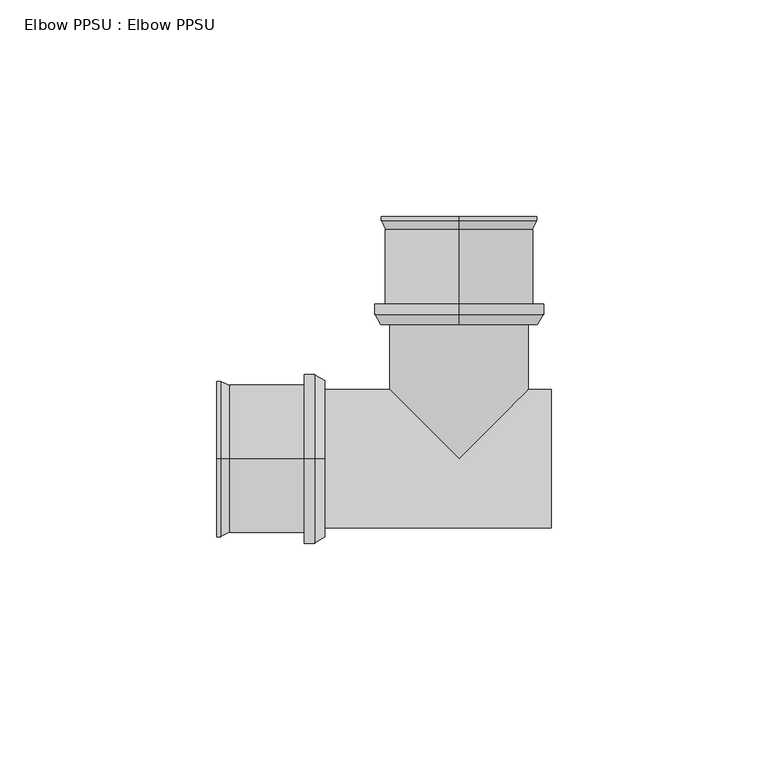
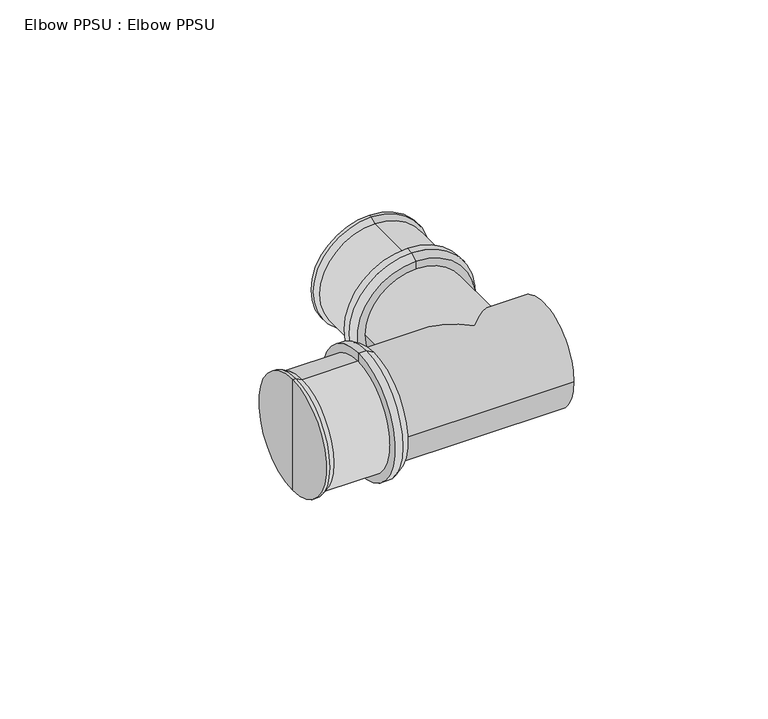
"""IFC4 building model written with IfcOpenShell, lengths in millimetres: pipe fitting geometry, Elbow PPSU : Elbow PPSU."""

from ifc_helpers import new_model, si_unit, frame, origin, place, context, project, spatial, polyline, circle_curve, ellipse_curve, source, transform, mapped, element, save
from ifc_brep_helpers import plane_surface, cylinder_surface, revolved_surface, advanced_brep


def elbow_ppsu_elbow_ppsu_6d3a7ead(model_context):
    return source(origin(), model_context, "Body", "AdvancedBrep", [
        advanced_brep(
        [(-31.0, 0.0, 0.0), (-31.0, 0.0, 18.1432269), (-31.0, 0.0, -18.1432269), (-35.7, 0.0, -19.5), (-35.7, 0.0, 19.5), (-35.7, 0.0, 0.0), (-33.35, 0.0, -19.5), (-33.35, 0.0, 19.5)],
        [
            (0, 1),
            (1, 2, circle_curve(frame((-31.0, 0.0, 0.0), z_axis=(1.0, 0.0, 0.0), x_axis=(0.0, 0.0, 1.0)), 18.1432269)),
            (2, 0),
            (2, 1, circle_curve(frame((-31.0, 0.0, 0.0), z_axis=(1.0, 0.0, 0.0), x_axis=(0.0, 0.0, 1.0)), 18.1432269)),
            (3, 4, circle_curve(frame((-35.7, 0.0, 0.0), z_axis=(-1.0, 0.0, 0.0), x_axis=(0.0, 0.0, 1.0)), 19.5)),
            (4, 5),
            (5, 3),
            (4, 3, circle_curve(frame((-35.7, 0.0, 0.0), z_axis=(-1.0, 0.0, 0.0), x_axis=(0.0, 0.0, 1.0)), 19.5)),
            (6, 7, circle_curve(frame((-33.35, 0.0, 0.0), z_axis=(-1.0, 0.0, 0.0), x_axis=(0.0, 0.0, 1.0)), 19.5)),
            (7, 4),
            (3, 6),
            (7, 6, circle_curve(frame((-33.35, 0.0, 0.0), z_axis=(-1.0, 0.0, 0.0), x_axis=(0.0, 0.0, 1.0)), 19.5)),
            (1, 7),
            (6, 2),
        ],
        [
            plane_surface(frame((-31.0, 0.0, 0.0), z_axis=(1.0, 0.0, 0.0), x_axis=(0.0, 0.0, 1.0))),
            plane_surface(frame((-35.7, 0.0, 0.0), z_axis=(-1.0, 0.0, 0.0), x_axis=(0.0, 0.0, 1.0))),
            cylinder_surface(frame((-32.0, 0.0, 0.0), z_axis=(1.0, 0.0, 0.0), x_axis=(0.0, 0.0, 1.0)), 19.5),
            revolved_surface(polyline([(-33.35, 0.0, 19.5), (-31.0, 0.0, 18.1432269)]), (-32.0, 0.0, 0.0), (1.0, 0.0, 0.0)),
        ],
        [
            (0, [[1, 2, 3]]),
            (0, [[-3, 4, -1]]),
            (1, [[5, 6, 7]]),
            (1, [[8, -7, -6]]),
            (2, [[9, 10, -5, 11]]),
            (2, [[12, -11, -8, -10]]),
            (3, [[-2, 13, -9, 14]]),
            (3, [[-4, -14, -12, -13]]),
        ],
    ),
        advanced_brep(
        [(-35.7, 0.0, -17.0), (-35.7, 0.0, 17.0), (-53.0, 0.0, 17.0), (-53.0, 0.0, -17.0), (-56.0, 0.0, -18.0), (-56.0, 0.0, 18.0), (-56.0, 0.0, 0.0), (-35.7, 0.0, 0.0), (-55.0, 0.0, -18.0), (-55.0, 0.0, 18.0)],
        [
            (0, 1, circle_curve(frame((-35.7, 0.0, 0.0), z_axis=(-1.0, 0.0, 0.0), x_axis=(0.0, 0.0, 1.0)), 17.0)),
            (1, 2),
            (2, 3, circle_curve(frame((-53.0, 0.0, 0.0), z_axis=(1.0, 0.0, 0.0), x_axis=(0.0, 0.0, 1.0)), 17.0)),
            (3, 0),
            (1, 0, circle_curve(frame((-35.7, 0.0, 0.0), z_axis=(-1.0, 0.0, 0.0), x_axis=(0.0, 0.0, 1.0)), 17.0)),
            (3, 2, circle_curve(frame((-53.0, 0.0, 0.0), z_axis=(1.0, 0.0, 0.0), x_axis=(0.0, 0.0, 1.0)), 17.0)),
            (4, 5, circle_curve(frame((-56.0, 0.0, 0.0), z_axis=(-1.0, 0.0, 0.0), x_axis=(0.0, 0.0, 1.0)), 18.0)),
            (5, 6),
            (6, 4),
            (5, 4, circle_curve(frame((-56.0, 0.0, 0.0), z_axis=(-1.0, 0.0, 0.0), x_axis=(0.0, 0.0, 1.0)), 18.0)),
            (7, 1),
            (0, 7),
            (8, 9, circle_curve(frame((-55.0, 0.0, 0.0), z_axis=(-1.0, 0.0, 0.0), x_axis=(0.0, 0.0, 1.0)), 18.0)),
            (9, 5),
            (4, 8),
            (9, 8, circle_curve(frame((-55.0, 0.0, 0.0), z_axis=(-1.0, 0.0, 0.0), x_axis=(0.0, 0.0, 1.0)), 18.0)),
            (2, 9),
            (8, 3),
        ],
        [
            cylinder_surface(frame((1879.8038476, 0.0, 0.0), z_axis=(1.0, 0.0, 0.0), x_axis=(0.0, 0.0, 1.0)), 17.0),
            plane_surface(frame((-56.0, 0.0, 0.0), z_axis=(-1.0, 0.0, 0.0), x_axis=(0.0, 0.0, 1.0))),
            plane_surface(frame((-35.7, 0.0, 0.0), z_axis=(1.0, 0.0, 0.0), x_axis=(0.0, 0.0, 1.0))),
            cylinder_surface(frame((1879.8038476, 0.0, 0.0), z_axis=(1.0, 0.0, 0.0), x_axis=(0.0, 0.0, 1.0)), 18.0),
            revolved_surface(polyline([(-55.0, 0.0, 18.0), (-53.0, 0.0, 17.0)]), (1879.8038476, 0.0, 0.0), (1.0, 0.0, 0.0)),
        ],
        [
            (0, [[1, 2, 3, 4]]),
            (0, [[5, -4, 6, -2]]),
            (1, [[7, 8, 9]]),
            (1, [[10, -9, -8]]),
            (2, [[11, -1, 12]]),
            (2, [[-12, -5, -11]]),
            (3, [[13, 14, -7, 15]]),
            (3, [[16, -15, -10, -14]]),
            (4, [[-3, 17, -13, 18]]),
            (4, [[-6, -18, -16, -17]]),
        ],
    ),
        advanced_brep(
        [(0.0, 31.0, 0.0), (0.0, 31.0, -18.1432269), (0.0, 31.0, 18.1432269), (0.0, 35.7, 19.5), (0.0, 35.7, -19.5), (0.0, 35.7, 0.0), (0.0, 33.35, 19.5), (0.0, 33.35, -19.5)],
        [
            (0, 1),
            (1, 2, circle_curve(frame((0.0, 31.0, 0.0), z_axis=(0.0, -1.0, 0.0), x_axis=(0.0, 0.0, -1.0)), 18.1432269)),
            (2, 0),
            (2, 1, circle_curve(frame((0.0, 31.0, 0.0), z_axis=(0.0, -1.0, 0.0), x_axis=(0.0, 0.0, -1.0)), 18.1432269)),
            (3, 4, circle_curve(frame((0.0, 35.7, 0.0), z_axis=(0.0, 1.0, 0.0), x_axis=(0.0, 0.0, -1.0)), 19.5)),
            (4, 5),
            (5, 3),
            (4, 3, circle_curve(frame((0.0, 35.7, 0.0), z_axis=(0.0, 1.0, 0.0), x_axis=(0.0, 0.0, -1.0)), 19.5)),
            (6, 7, circle_curve(frame((0.0, 33.35, 0.0), z_axis=(0.0, 1.0, 0.0), x_axis=(0.0, 0.0, -1.0)), 19.5)),
            (7, 4),
            (3, 6),
            (7, 6, circle_curve(frame((0.0, 33.35, 0.0), z_axis=(0.0, 1.0, 0.0), x_axis=(0.0, 0.0, -1.0)), 19.5)),
            (1, 7),
            (6, 2),
        ],
        [
            plane_surface(frame((0.0, 31.0, 0.0), z_axis=(0.0, -1.0, 0.0), x_axis=(0.0, 0.0, -1.0))),
            plane_surface(frame((0.0, 35.7, 0.0), z_axis=(0.0, 1.0, 0.0), x_axis=(0.0, 0.0, -1.0))),
            cylinder_surface(frame((0.0, 32.0, 0.0), z_axis=(0.0, -1.0, 0.0), x_axis=(0.0, 0.0, -1.0)), 19.5),
            revolved_surface(polyline([(0.0, 33.35, -19.5), (0.0, 31.0, -18.1432269)]), (0.0, 32.0, 0.0), (0.0, -1.0, 0.0)),
        ],
        [
            (0, [[1, 2, 3]]),
            (0, [[-3, 4, -1]]),
            (1, [[5, 6, 7]]),
            (1, [[8, -7, -6]]),
            (2, [[9, 10, -5, 11]]),
            (2, [[12, -11, -8, -10]]),
            (3, [[-2, 13, -9, 14]]),
            (3, [[-4, -14, -12, -13]]),
        ],
    ),
        advanced_brep(
        [(0.0, 35.7, 17.0), (0.0, 35.7, -17.0), (0.0, 53.0, -17.0), (0.0, 53.0, 17.0), (0.0, 56.0, 18.0), (0.0, 56.0, -18.0), (0.0, 56.0, 0.0), (0.0, 35.7, 0.0), (0.0, 55.0, 18.0), (0.0, 55.0, -18.0)],
        [
            (0, 1, circle_curve(frame((0.0, 35.7, 0.0), z_axis=(0.0, 1.0, 0.0), x_axis=(0.0, 0.0, -1.0)), 17.0)),
            (1, 2),
            (2, 3, circle_curve(frame((0.0, 53.0, 0.0), z_axis=(0.0, -1.0, 0.0), x_axis=(0.0, 0.0, -1.0)), 17.0)),
            (3, 0),
            (1, 0, circle_curve(frame((0.0, 35.7, 0.0), z_axis=(0.0, 1.0, 0.0), x_axis=(0.0, 0.0, -1.0)), 17.0)),
            (3, 2, circle_curve(frame((0.0, 53.0, 0.0), z_axis=(0.0, -1.0, 0.0), x_axis=(0.0, 0.0, -1.0)), 17.0)),
            (4, 5, circle_curve(frame((0.0, 56.0, 0.0), z_axis=(0.0, 1.0, 0.0), x_axis=(0.0, 0.0, -1.0)), 18.0)),
            (5, 6),
            (6, 4),
            (5, 4, circle_curve(frame((0.0, 56.0, 0.0), z_axis=(0.0, 1.0, 0.0), x_axis=(0.0, 0.0, -1.0)), 18.0)),
            (7, 1),
            (0, 7),
            (8, 9, circle_curve(frame((0.0, 55.0, 0.0), z_axis=(0.0, 1.0, 0.0), x_axis=(0.0, 0.0, -1.0)), 18.0)),
            (9, 5),
            (4, 8),
            (9, 8, circle_curve(frame((0.0, 55.0, 0.0), z_axis=(0.0, 1.0, 0.0), x_axis=(0.0, 0.0, -1.0)), 18.0)),
            (2, 9),
            (8, 3),
        ],
        [
            cylinder_surface(frame((0.0, -1879.8038476, 0.0), z_axis=(0.0, -1.0, 0.0), x_axis=(0.0, 0.0, -1.0)), 17.0),
            plane_surface(frame((0.0, 56.0, 0.0), z_axis=(0.0, 1.0, 0.0), x_axis=(0.0, 0.0, -1.0))),
            plane_surface(frame((0.0, 35.7, 0.0), z_axis=(0.0, -1.0, 0.0), x_axis=(0.0, 0.0, -1.0))),
            cylinder_surface(frame((0.0, -1879.8038476, 0.0), z_axis=(0.0, -1.0, 0.0), x_axis=(0.0, 0.0, -1.0)), 18.0),
            revolved_surface(polyline([(0.0, 55.0, -18.0), (0.0, 53.0, -17.0)]), (0.0, -1879.8038476, 0.0), (0.0, -1.0, 0.0)),
        ],
        [
            (0, [[1, 2, 3, 4]]),
            (0, [[5, -4, 6, -2]]),
            (1, [[7, 8, 9]]),
            (1, [[10, -9, -8]]),
            (2, [[11, -1, 12]]),
            (2, [[-12, -5, -11]]),
            (3, [[13, 14, -7, 15]]),
            (3, [[16, -15, -10, -14]]),
            (4, [[-3, 17, -13, 18]]),
            (4, [[-6, -18, -16, -17]]),
        ],
    ),
        advanced_brep(
        [(21.3333333, 16.0, 0.0), (21.3333333, -16.0, 0.0), (-32.0, 16.0, 0.0), (-32.0, -16.0, 0.0), (16.0, 16.0, 0.0), (0.0, 0.0, 16.0), (-16.0, 16.0, 0.0), (0.0, -16.0, 0.0), (0.0, 0.0, -16.0), (16.0, 32.0, 0.0), (-16.0, 32.0, 0.0)],
        [
            (0, 1, circle_curve(frame((21.3333333, 0.0, 0.0), z_axis=(1.0, 0.0, 0.0), x_axis=(0.0, -1.0, 0.0)), 16.0)),
            (1, 0, circle_curve(frame((21.3333333, 0.0, 0.0), z_axis=(1.0, 0.0, 0.0), x_axis=(0.0, -1.0, 0.0)), 16.0)),
            (2, 3, circle_curve(frame((-32.0, 0.0, 0.0), z_axis=(-1.0, 0.0, 0.0), x_axis=(0.0, -1.0, 0.0)), 16.0)),
            (3, 2, circle_curve(frame((-32.0, 0.0, 0.0), z_axis=(-1.0, 0.0, 0.0), x_axis=(0.0, -1.0, 0.0)), 16.0)),
            (0, 4),
            (4, 5, ellipse_curve(frame((0.0, 0.0, 0.0), z_axis=(0.7071067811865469, -0.7071067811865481, 0.0), x_axis=(0.7071067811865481, 0.7071067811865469, 0.0)), 22.627417, 16.0)),
            (5, 6, ellipse_curve(frame((0.0, 0.0, 0.0), z_axis=(-0.707106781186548, -0.7071067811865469, 0.0), x_axis=(0.7071067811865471, -0.7071067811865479, 0.0)), 22.627417, 16.0)),
            (6, 2),
            (3, 7),
            (7, 1),
            (6, 8, ellipse_curve(frame((0.0, 0.0, 0.0), z_axis=(-0.707106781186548, -0.7071067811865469, 0.0), x_axis=(0.7071067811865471, -0.7071067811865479, 0.0)), 22.627417, 16.0)),
            (8, 4, ellipse_curve(frame((0.0, 0.0, 0.0), z_axis=(0.7071067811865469, -0.7071067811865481, 0.0), x_axis=(0.7071067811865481, 0.7071067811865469, 0.0)), 22.627417, 16.0)),
            (9, 10, circle_curve(frame((0.0, 32.0, 0.0), z_axis=(0.0, 1.0, 0.0), x_axis=(-1.0, 0.0, 0.0)), 16.0)),
            (10, 9, circle_curve(frame((0.0, 32.0, 0.0), z_axis=(0.0, 1.0, 0.0), x_axis=(-1.0, 0.0, 0.0)), 16.0)),
            (10, 6),
            (4, 9),
        ],
        [
            plane_surface(frame((21.3333333, 0.0, 0.0), z_axis=(1.0, 0.0, 0.0), x_axis=(0.0, 0.0, 1.0))),
            plane_surface(frame((-32.0, 0.0, 0.0), z_axis=(-1.0, 0.0, 0.0), x_axis=(0.0, 0.0, 1.0))),
            cylinder_surface(frame((21.3333333, 0.0, 0.0), z_axis=(1.0, 0.0, 0.0), x_axis=(0.0, -1.0, 0.0)), 16.0),
            plane_surface(frame((0.0, 32.0, 0.0), z_axis=(0.0, 1.0, 0.0), x_axis=(0.0, 0.0, 1.0))),
            cylinder_surface(frame((0.0, 0.0, 0.0), z_axis=(0.0, -1.0, 0.0), x_axis=(-1.0, 0.0, 0.0)), 16.0),
        ],
        [
            (0, [[1, 2]]),
            (1, [[3, 4]]),
            (2, [[-1, 5, 6, 7, 8, -4, 9, 10]]),
            (2, [[-2, -10, -9, -3, -8, 11, 12, -5]]),
            (3, [[13, 14]]),
            (4, [[-14, 15, -7, -6, 16]]),
            (4, [[-13, -16, -12, -11, -15]]),
        ],
    ),
    ])


if __name__ == "__main__":
    model = new_model("IFC4")
    model_context = context("Model", 3, world=origin())
    ifc_project = project(units=[si_unit("LENGTHUNIT", "METRE", prefix="MILLI")], contexts=[model_context])
    site = spatial("IfcSite", under=ifc_project)
    building = spatial("IfcBuilding", under=site)
    placement = place(None, origin())
    elbow_ppsu_elbow_ppsu_shape = elbow_ppsu_elbow_ppsu_6d3a7ead(model_context)
    element("IfcPipeFitting", 1, ObjectType="Elbow PPSU : Elbow PPSU", at=placement, inside=building, context=model_context, shape_type="MappedRepresentation", body=[
        mapped(elbow_ppsu_elbow_ppsu_shape, transform((0.0, 0.0, 0.0), x_axis=(1.0, 0.0, 0.0), y_axis=(0.0, 1.0, 0.0), z_axis=(0.0, 0.0, 1.0))),
    ])
    save(model, "model.ifc")
